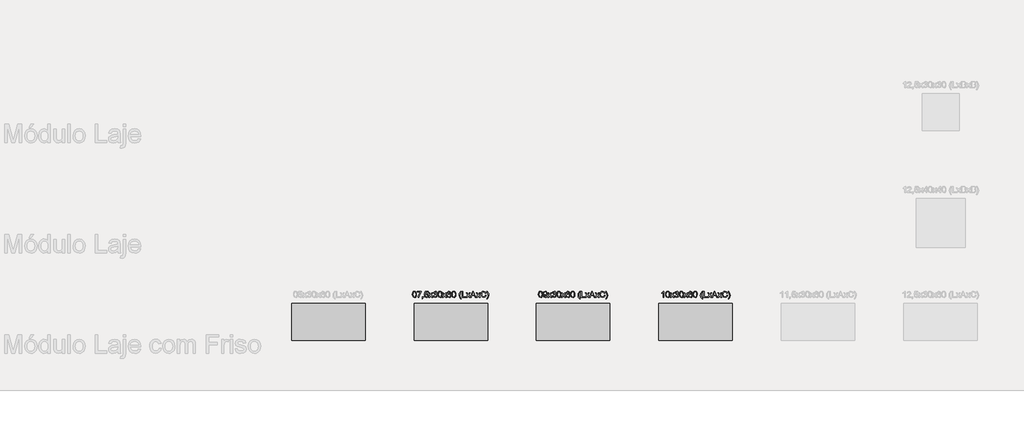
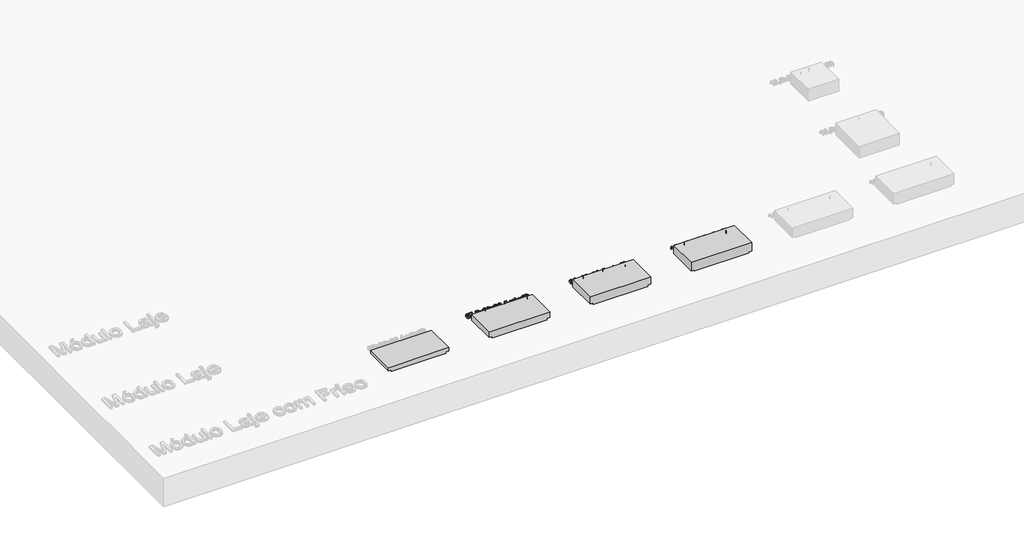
# One storey, part 3 of 26: 7 proxies.
"""IFC4 building model written with IfcOpenShell, lengths in millimetres."""

from ifc_helpers import new_model, si_unit, origin, origin_with_axes, place, context, project, spatial, polyline, outline, extrude, transform, mapped, element, save
from components import generic_models_f0a144f9, generic_models_3bab0257, generic_models_5cd3b0e0, generic_models_69db69bc

model = new_model("IFC4")

# Units and contexts
model_context = context("Model", 3, world=origin())
ifc_project = project(units=[si_unit("LENGTHUNIT", "METRE", prefix="MILLI")], contexts=[model_context])

# Site, building, storey
site = spatial("IfcSite", under=ifc_project)
building = spatial("IfcBuilding", under=site)
storey = spatial("IfcBuildingStorey", under=building, Name="Catálogo Celucon", Elevation=0.0)

# Proxies
placement = place(None, origin())
element("IfcBuildingElementProxy", 1, Name="Dimensões", ObjectType="Dimensões", at=placement, inside=storey, context=model_context, shape_type="SweptSolid", body=[
    extrude(outline(polyline([(-12810.6091225, -4574.9666048), (-12808.7635811, -4560.5149738), (-12803.2821394, -4552.1824466), (-12794.1280091, -4549.4478571), (-12786.7948946, -4551.0665379), (-12781.7303858, -4555.7325078), (-12778.7873299, -4563.1637241), (-12777.6468957, -4574.9666048), (-12779.4740429, -4589.3569222), (-12784.9370906, -4597.7078435), (-12794.1280091, -4600.4608271), (-12805.6059273, -4595.6783612), (-12809.3583237, -4587.1833528), (-12810.6091225, -4574.9666048)]), holes=[polyline([(-12804.3306031, -4574.9543421), (-12801.3875471, -4590.5464073), (-12794.1280091, -4594.1823077), (-12786.868471, -4590.5341446), (-12783.9254151, -4574.9543421), (-12786.7703692, -4559.5400865), (-12794.2015855, -4555.7263765), (-12801.2894452, -4559.0863654), (-12804.3306031, -4574.9543421)])]), origin_with_axes(), (0.0, 0.0, 1.0), 20.0),
    extrude(outline(polyline([(-12772.1531912, -4556.5111914), (-12772.1531912, -4550.232672), (-12739.1909645, -4550.232672), (-12739.1909645, -4555.3094436), (-12748.5412985, -4568.8168441), (-12755.6966033, -4586.0275901), (-12758.0265226, -4599.6760122), (-12764.305042, -4599.6760122), (-12761.8095758, -4585.5125554), (-12754.9608393, -4569.5035572), (-12745.4694838, -4556.5111914), (-12772.1531912, -4556.5111914)])), origin_with_axes(), (0.0, 0.0, 1.0), 20.0),
    extrude(outline(polyline([(-12730.5580003, -4599.6760122), (-12730.5580003, -4593.3974928), (-12724.2794809, -4593.3974928), (-12724.2794809, -4599.6760122), (-12725.4076524, -4606.095553), (-12728.9883705, -4609.8786062), (-12730.5580003, -4607.5241614), (-12728.2526065, -4604.8140974), (-12727.4310034, -4599.6760122), (-12730.5580003, -4599.6760122)])), origin_with_axes(), (0.0, 0.0, 1.0), 20.0),
    extrude(outline(polyline([(-12714.0768869, -4586.3341585), (-12707.7983675, -4585.5493436), (-12704.6345824, -4592.0179353), (-12698.0740201, -4594.1823077), (-12690.2013454, -4591.1718067), (-12687.3931795, -4583.1826361), (-12690.0235358, -4575.7268943), (-12697.9759183, -4572.9923048), (-12703.4880168, -4574.083688), (-12707.0135526, -4576.9163794), (-12713.292072, -4576.1315645), (-12707.7983675, -4550.232672), (-12683.4691049, -4550.232672), (-12683.4691049, -4556.5111914), (-12702.721596, -4556.5111914), (-12705.4071346, -4570.3435544), (-12696.2223474, -4566.7137854), (-12685.4863245, -4571.2142085), (-12681.1146602, -4582.7902286), (-12685.0509975, -4594.4398251), (-12690.7041175, -4598.9555766), (-12698.0985456, -4600.4608271), (-12709.177925, -4596.5919348), (-12714.0768869, -4586.3341585)])), origin_with_axes(), (0.0, 0.0, 1.0), 20.0),
    extrude(outline(polyline([(-12677.9754005, -4599.6760122), (-12664.5599704, -4581.1347596), (-12677.1905855, -4562.7897108), (-12669.6367419, -4562.7897108), (-12663.5421635, -4571.6188787), (-12660.6972094, -4575.7882079), (-12658.2324001, -4572.3791681), (-12651.2916931, -4562.7897108), (-12643.7378494, -4562.7897108), (-12657.0061267, -4581.1347596), (-12644.2283588, -4599.6760122), (-12651.7822024, -4599.6760122), (-12659.4709361, -4588.5291877), (-12660.8811504, -4586.493574), (-12670.4215568, -4599.6760122), (-12677.9754005, -4599.6760122)])), origin_with_axes(), (0.0, 0.0, 1.0), 20.0),
    extrude(outline(polyline([(-12640.3042842, -4586.3341585), (-12634.0257648, -4585.5493436), (-12630.5615427, -4592.1589567), (-12624.0806882, -4594.1823077), (-12616.4532681, -4591.3986673), (-12613.6205768, -4584.5070112), (-12616.4287427, -4578.013894), (-12623.5656534, -4575.4448514), (-12627.9679746, -4576.1315645), (-12627.2689988, -4569.8530451), (-12619.1388067, -4568.1239997), (-12615.9750215, -4562.5812443), (-12618.2681526, -4557.6700197), (-12624.17879, -4555.7263765), (-12630.1630038, -4557.6884138), (-12633.2409499, -4563.5745257), (-12639.5194692, -4562.7897108), (-12634.381384, -4552.942736), (-12624.3995192, -4549.4478571), (-12616.8272815, -4551.1707711), (-12611.5297808, -4555.8796606), (-12609.6965022, -4562.2133623), (-12611.4378103, -4568.0013724), (-12616.5881582, -4572.1584389), (-12609.7455531, -4576.4503955), (-12607.3420574, -4584.6173758), (-12612.1490488, -4595.8500394), (-12624.3014174, -4600.4608271), (-12635.3133518, -4596.5244897), (-12640.3042842, -4586.3341585)])), origin_with_axes(), (0.0, 0.0, 1.0), 20.0),
    extrude(outline(polyline([(-12601.8483529, -4574.9666048), (-12600.0028116, -4560.5149738), (-12594.5213699, -4552.1824466), (-12585.3672395, -4549.4478571), (-12578.0341251, -4551.0665379), (-12572.9696163, -4555.7325078), (-12570.0265603, -4563.1637241), (-12568.8861262, -4574.9666048), (-12570.7132734, -4589.3569222), (-12576.176321, -4597.7078435), (-12585.3672395, -4600.4608271), (-12596.8451578, -4595.6783612), (-12600.5975541, -4587.1833528), (-12601.8483529, -4574.9666048)]), holes=[polyline([(-12595.5698335, -4574.9543421), (-12592.6267776, -4590.5464073), (-12585.3672395, -4594.1823077), (-12578.1077015, -4590.5341446), (-12575.1646455, -4574.9543421), (-12578.0095996, -4559.5400865), (-12585.4408159, -4555.7263765), (-12592.5286757, -4559.0863654), (-12595.5698335, -4574.9543421)])]), origin_with_axes(), (0.0, 0.0, 1.0), 20.0),
    extrude(outline(polyline([(-12565.7468665, -4599.6760122), (-12552.3314364, -4581.1347596), (-12564.9620515, -4562.7897108), (-12557.4082079, -4562.7897108), (-12551.3136295, -4571.6188787), (-12548.4686754, -4575.7882079), (-12546.0038661, -4572.3791681), (-12539.0631591, -4562.7897108), (-12531.5093155, -4562.7897108), (-12544.7775927, -4581.1347596), (-12531.9998248, -4599.6760122), (-12539.5536684, -4599.6760122), (-12547.2424021, -4588.5291877), (-12548.6526164, -4586.493574), (-12558.1930228, -4599.6760122), (-12565.7468665, -4599.6760122)])), origin_with_axes(), (0.0, 0.0, 1.0), 20.0),
    extrude(outline(polyline([(-12495.8983383, -4562.7897108), (-12502.1768577, -4563.5745257), (-12504.5558279, -4558.3383386), (-12510.8466101, -4555.7263765), (-12516.5119928, -4557.2469554), (-12520.797818, -4562.9552577), (-12522.5820457, -4574.1450017), (-12517.0454217, -4569.1356752), (-12510.1844225, -4567.4986003), (-12499.5158446, -4571.9744979), (-12495.1135234, -4583.5382553), (-12497.1859253, -4592.2018763), (-12502.8880962, -4598.3332429), (-12511.1163902, -4600.4608271), (-12523.9125523, -4594.8199698), (-12527.6235619, -4587.3519653), (-12528.8605651, -4576.2296663), (-12527.487139, -4563.7247442), (-12523.3668606, -4555.1745535), (-12517.7413318, -4550.8795312), (-12510.4542026, -4549.4478571), (-12500.5336515, -4552.991787), (-12495.8983383, -4562.7897108)]), holes=[polyline([(-12522.5820457, -4583.4401534), (-12521.1289118, -4588.8786756), (-12517.2661509, -4592.8272757), (-12511.6068995, -4594.1823077), (-12504.20634, -4591.3741418), (-12501.3920428, -4583.7467218), (-12504.1695518, -4576.4442642), (-12511.8644169, -4573.7771197), (-12519.4611801, -4576.4442642), (-12522.5820457, -4583.4401534)])]), origin_with_axes(), (0.0, 0.0, 1.0), 20.0),
    extrude(outline(polyline([(-12489.6198189, -4574.9666048), (-12487.7742776, -4560.5149738), (-12482.2928359, -4552.1824466), (-12473.1387056, -4549.4478571), (-12465.8055911, -4551.0665379), (-12460.7410823, -4555.7325078), (-12457.7980264, -4563.1637241), (-12456.6575922, -4574.9666048), (-12458.4847394, -4589.3569222), (-12463.947787, -4597.7078435), (-12473.1387056, -4600.4608271), (-12484.6166238, -4595.6783612), (-12488.3690202, -4587.1833528), (-12489.6198189, -4574.9666048)]), holes=[polyline([(-12483.3412996, -4574.9543421), (-12480.3982436, -4590.5464073), (-12473.1387056, -4594.1823077), (-12465.8791675, -4590.5341446), (-12462.9361116, -4574.9543421), (-12465.7810656, -4559.5400865), (-12473.212282, -4555.7263765), (-12480.3001417, -4559.0863654), (-12483.3412996, -4574.9543421)])]), origin_with_axes(), (0.0, 0.0, 1.0), 20.0),
    extrude(outline(polyline([(-12417.416846, -4613.8026808), (-12426.331853, -4599.0751382), (-12429.9738848, -4581.5884807), (-12427.251558, -4566.3213779), (-12417.416846, -4549.4478571), (-12412.7079565, -4549.4478571), (-12418.5818057, -4559.3929337), (-12422.1134728, -4569.031442), (-12423.6953654, -4581.6252689), (-12420.9485132, -4597.7201062), (-12412.7079565, -4613.8026808), (-12417.416846, -4613.8026808)])), origin_with_axes(), (0.0, 0.0, 1.0), 20.0),
    extrude(outline(polyline([(-12405.6446222, -4599.6760122), (-12405.6446222, -4549.4478571), (-12399.3661028, -4549.4478571), (-12399.3661028, -4593.3974928), (-12374.2520252, -4593.3974928), (-12374.2520252, -4599.6760122), (-12405.6446222, -4599.6760122)])), origin_with_axes(), (0.0, 0.0, 1.0), 20.0),
    extrude(outline(polyline([(-12337.7213431, -4599.6760122), (-12317.6717744, -4549.4478571), (-12312.3252227, -4549.4478571), (-12292.275654, -4599.6760122), (-12298.9097926, -4599.6760122), (-12304.6610145, -4583.9797137), (-12325.3482454, -4583.9797137), (-12331.0872045, -4599.6760122), (-12337.7213431, -4599.6760122)]), holes=[polyline([(-12323.0428515, -4577.7011943), (-12306.9541456, -4577.7011943), (-12311.4790941, -4565.352622), (-12314.9984986, -4555.7263765), (-12318.1254955, -4564.2735015), (-12323.0428515, -4577.7011943)])]), origin_with_axes(), (0.0, 0.0, 1.0), 20.0),
    extrude(outline(polyline([(-12371.8975805, -4599.6760122), (-12358.4821504, -4581.1347596), (-12371.1127656, -4562.7897108), (-12363.5589219, -4562.7897108), (-12357.4643435, -4571.6188787), (-12354.6193894, -4575.7882079), (-12352.1545801, -4572.3791681), (-12345.2138731, -4562.7897108), (-12337.6600295, -4562.7897108), (-12350.9283068, -4581.1347596), (-12338.1505388, -4599.6760122), (-12345.7043824, -4599.6760122), (-12353.3931161, -4588.5291877), (-12354.8033304, -4586.493574), (-12364.3437368, -4599.6760122), (-12371.8975805, -4599.6760122)])), origin_with_axes(), (0.0, 0.0, 1.0), 20.0),
    extrude(outline(polyline([(-12290.2768285, -4599.6760122), (-12276.8613984, -4581.1347596), (-12289.4920136, -4562.7897108), (-12281.9381699, -4562.7897108), (-12275.8435915, -4571.6188787), (-12272.9986374, -4575.7882079), (-12270.5338281, -4572.3791681), (-12263.5931211, -4562.7897108), (-12256.0392775, -4562.7897108), (-12269.3075548, -4581.1347596), (-12256.5297868, -4599.6760122), (-12264.0836304, -4599.6760122), (-12271.7723641, -4588.5291877), (-12273.1825784, -4586.493574), (-12282.7229848, -4599.6760122), (-12290.2768285, -4599.6760122)])), origin_with_axes(), (0.0, 0.0, 1.0), 20.0),
    extrude(outline(polyline([(-12214.9345959, -4581.8214727), (-12208.6560765, -4583.4401534), (-12216.0995555, -4596.1014255), (-12229.2452055, -4600.4608271), (-12242.3111477, -4597.1621519), (-12249.9753559, -4587.6094827), (-12252.6057122, -4574.1817899), (-12249.6319994, -4560.5333679), (-12241.1768449, -4551.6858059), (-12229.1103154, -4548.6630422), (-12216.5348825, -4552.5748541), (-12209.4408914, -4563.5867884), (-12215.7194108, -4565.0828419), (-12220.8697587, -4557.3634514), (-12229.3555701, -4554.9415616), (-12239.1780194, -4557.6271001), (-12244.7269061, -4564.8375872), (-12246.3271928, -4574.1695272), (-12244.4326005, -4584.9852578), (-12238.5342259, -4591.895308), (-12229.8706049, -4594.1823077), (-12220.2627534, -4591.0675735), (-12214.9345959, -4581.8214727)])), origin_with_axes(), (0.0, 0.0, 1.0), 20.0),
    extrude(outline(polyline([(-12199.2382974, -4613.8026808), (-12203.9471869, -4613.8026808), (-12195.7066303, -4597.7201062), (-12192.959778, -4581.6252689), (-12194.5416706, -4569.1418066), (-12198.0365496, -4559.4910356), (-12203.9471869, -4549.4478571), (-12199.2382974, -4549.4478571), (-12189.4035854, -4566.3213779), (-12186.6812586, -4581.5884807), (-12190.3416845, -4599.0751382), (-12199.2382974, -4613.8026808)])), origin_with_axes(), (0.0, 0.0, 1.0), 20.0),
])
element("IfcBuildingElementProxy", 2, Name="Dimensões", ObjectType="Dimensões", at=placement, inside=storey, context=model_context, shape_type="SweptSolid", body=[
    extrude(outline(polyline([(-11781.5709703, -4574.9666048), (-11779.725429, -4560.5149738), (-11774.2439872, -4552.1824466), (-11765.0898569, -4549.4478571), (-11757.7567425, -4551.0665379), (-11752.6922337, -4555.7325078), (-11749.7491777, -4563.1637241), (-11748.6087435, -4574.9666048), (-11750.4358908, -4589.3569222), (-11755.8989384, -4597.7078435), (-11765.0898569, -4600.4608271), (-11776.5677752, -4595.6783612), (-11780.3201715, -4587.1833528), (-11781.5709703, -4574.9666048)]), holes=[polyline([(-11775.2924509, -4574.9543421), (-11772.349395, -4590.5464073), (-11765.0898569, -4594.1823077), (-11757.8303189, -4590.5341446), (-11754.8872629, -4574.9543421), (-11757.732217, -4559.5400865), (-11765.1634333, -4555.7263765), (-11772.2512931, -4559.0863654), (-11775.2924509, -4574.9543421)])]), origin_with_axes(), (0.0, 0.0, 1.0), 20.0),
    extrude(outline(polyline([(-11742.3302242, -4587.1189734), (-11736.0517048, -4586.3341585), (-11733.2312761, -4592.3245036), (-11727.8847245, -4594.1823077), (-11722.8018216, -4592.9866912), (-11719.3559936, -4589.7922492), (-11717.3019857, -4584.335333), (-11716.3945435, -4577.0512695), (-11721.4529209, -4580.5829366), (-11728.3384456, -4582.4100839), (-11738.8292138, -4577.946449), (-11743.1150391, -4566.1864879), (-11738.6207474, -4554.046382), (-11727.357427, -4549.4478571), (-11718.4117631, -4552.072082), (-11712.255871, -4559.5523492), (-11710.1528123, -4573.6054414), (-11712.2497397, -4588.8541501), (-11718.4853395, -4597.4932457), (-11728.1790301, -4600.4608271), (-11737.8298011, -4596.9598168), (-11742.3302242, -4587.1189734)]), holes=[polyline([(-11716.4313317, -4566.0393351), (-11719.1413957, -4558.5100169), (-11726.3396201, -4555.7263765), (-11733.8934637, -4558.7246147), (-11736.8365197, -4566.4930562), (-11734.0528793, -4573.4521573), (-11726.5112984, -4576.1315645), (-11719.2701544, -4573.4521573), (-11716.4313317, -4566.0393351)])]), origin_with_axes(), (0.0, 0.0, 1.0), 20.0),
    extrude(outline(polyline([(-11707.0135526, -4599.6760122), (-11693.5981225, -4581.1347596), (-11706.2287377, -4562.7897108), (-11698.6748941, -4562.7897108), (-11692.5803157, -4571.6188787), (-11689.7353616, -4575.7882079), (-11687.2705522, -4572.3791681), (-11680.3298452, -4562.7897108), (-11672.7760016, -4562.7897108), (-11686.0442789, -4581.1347596), (-11673.2665109, -4599.6760122), (-11680.8203546, -4599.6760122), (-11688.5090883, -4588.5291877), (-11689.9193026, -4586.493574), (-11699.459709, -4599.6760122), (-11707.0135526, -4599.6760122)])), origin_with_axes(), (0.0, 0.0, 1.0), 20.0),
    extrude(outline(polyline([(-11669.3424363, -4586.3341585), (-11663.0639169, -4585.5493436), (-11659.5996948, -4592.1589567), (-11653.1188403, -4594.1823077), (-11645.4914203, -4591.3986673), (-11642.6587289, -4584.5070112), (-11645.4668948, -4578.013894), (-11652.6038055, -4575.4448514), (-11657.0061267, -4576.1315645), (-11656.3071509, -4569.8530451), (-11648.1769589, -4568.1239997), (-11645.0131737, -4562.5812443), (-11647.3063048, -4557.6700197), (-11653.2169422, -4555.7263765), (-11659.201156, -4557.6884138), (-11662.279102, -4563.5745257), (-11668.5576214, -4562.7897108), (-11663.4195362, -4552.942736), (-11653.4376714, -4549.4478571), (-11645.8654337, -4551.1707711), (-11640.5679329, -4555.8796606), (-11638.7346543, -4562.2133623), (-11640.4759624, -4568.0013724), (-11645.6263104, -4572.1584389), (-11638.7837052, -4576.4503955), (-11636.3802095, -4584.6173758), (-11641.1872009, -4595.8500394), (-11653.3395695, -4600.4608271), (-11664.3515039, -4596.5244897), (-11669.3424363, -4586.3341585)])), origin_with_axes(), (0.0, 0.0, 1.0), 20.0),
    extrude(outline(polyline([(-11630.8865051, -4574.9666048), (-11629.0409637, -4560.5149738), (-11623.559522, -4552.1824466), (-11614.4053917, -4549.4478571), (-11607.0722773, -4551.0665379), (-11602.0077685, -4555.7325078), (-11599.0647125, -4563.1637241), (-11597.9242783, -4574.9666048), (-11599.7514256, -4589.3569222), (-11605.2144732, -4597.7078435), (-11614.4053917, -4600.4608271), (-11625.8833099, -4595.6783612), (-11629.6357063, -4587.1833528), (-11630.8865051, -4574.9666048)]), holes=[polyline([(-11624.6079857, -4574.9543421), (-11621.6649297, -4590.5464073), (-11614.4053917, -4594.1823077), (-11607.1458537, -4590.5341446), (-11604.2027977, -4574.9543421), (-11607.0477518, -4559.5400865), (-11614.4789681, -4555.7263765), (-11621.5668279, -4559.0863654), (-11624.6079857, -4574.9543421)])]), origin_with_axes(), (0.0, 0.0, 1.0), 20.0),
    extrude(outline(polyline([(-11594.7850186, -4599.6760122), (-11581.3695885, -4581.1347596), (-11594.0002037, -4562.7897108), (-11586.4463601, -4562.7897108), (-11580.3517817, -4571.6188787), (-11577.5068276, -4575.7882079), (-11575.0420182, -4572.3791681), (-11568.1013112, -4562.7897108), (-11560.5474676, -4562.7897108), (-11573.8157449, -4581.1347596), (-11561.0379769, -4599.6760122), (-11568.5918206, -4599.6760122), (-11576.2805543, -4588.5291877), (-11577.6907686, -4586.493574), (-11587.231175, -4599.6760122), (-11594.7850186, -4599.6760122)])), origin_with_axes(), (0.0, 0.0, 1.0), 20.0),
    extrude(outline(polyline([(-11524.9364905, -4562.7897108), (-11531.2150099, -4563.5745257), (-11533.5939801, -4558.3383386), (-11539.8847622, -4555.7263765), (-11545.5501449, -4557.2469554), (-11549.8359702, -4562.9552577), (-11551.6201979, -4574.1450017), (-11546.0835738, -4569.1356752), (-11539.2225746, -4567.4986003), (-11528.5539968, -4571.9744979), (-11524.1516755, -4583.5382553), (-11526.2240775, -4592.2018763), (-11531.9262484, -4598.3332429), (-11540.1545423, -4600.4608271), (-11552.9507044, -4594.8199698), (-11556.661714, -4587.3519653), (-11557.8987172, -4576.2296663), (-11556.5252911, -4563.7247442), (-11552.4050128, -4555.1745535), (-11546.7794839, -4550.8795312), (-11539.4923547, -4549.4478571), (-11529.5718036, -4552.991787), (-11524.9364905, -4562.7897108)]), holes=[polyline([(-11551.6201979, -4583.4401534), (-11550.167064, -4588.8786756), (-11546.304303, -4592.8272757), (-11540.6450517, -4594.1823077), (-11533.2444922, -4591.3741418), (-11530.4301949, -4583.7467218), (-11533.207704, -4576.4442642), (-11540.9025691, -4573.7771197), (-11548.4993323, -4576.4442642), (-11551.6201979, -4583.4401534)])]), origin_with_axes(), (0.0, 0.0, 1.0), 20.0),
    extrude(outline(polyline([(-11518.6579711, -4574.9666048), (-11516.8124297, -4560.5149738), (-11511.330988, -4552.1824466), (-11502.1768577, -4549.4478571), (-11494.8437433, -4551.0665379), (-11489.7792345, -4555.7325078), (-11486.8361785, -4563.1637241), (-11485.6957443, -4574.9666048), (-11487.5228916, -4589.3569222), (-11492.9859392, -4597.7078435), (-11502.1768577, -4600.4608271), (-11513.654776, -4595.6783612), (-11517.4071723, -4587.1833528), (-11518.6579711, -4574.9666048)]), holes=[polyline([(-11512.3794517, -4574.9543421), (-11509.4363957, -4590.5464073), (-11502.1768577, -4594.1823077), (-11494.9173197, -4590.5341446), (-11491.9742637, -4574.9543421), (-11494.8192178, -4559.5400865), (-11502.2504341, -4555.7263765), (-11509.3382939, -4559.0863654), (-11512.3794517, -4574.9543421)])]), origin_with_axes(), (0.0, 0.0, 1.0), 20.0),
    extrude(outline(polyline([(-11446.4549982, -4613.8026808), (-11455.3700052, -4599.0751382), (-11459.0120369, -4581.5884807), (-11456.2897102, -4566.3213779), (-11446.4549982, -4549.4478571), (-11441.7461086, -4549.4478571), (-11447.6199578, -4559.3929337), (-11451.151625, -4569.031442), (-11452.7335176, -4581.6252689), (-11449.9866653, -4597.7201062), (-11441.7461086, -4613.8026808), (-11446.4549982, -4613.8026808)])), origin_with_axes(), (0.0, 0.0, 1.0), 20.0),
    extrude(outline(polyline([(-11434.6827743, -4599.6760122), (-11434.6827743, -4549.4478571), (-11428.4042549, -4549.4478571), (-11428.4042549, -4593.3974928), (-11403.2901774, -4593.3974928), (-11403.2901774, -4599.6760122), (-11434.6827743, -4599.6760122)])), origin_with_axes(), (0.0, 0.0, 1.0), 20.0),
    extrude(outline(polyline([(-11366.7594953, -4599.6760122), (-11346.7099265, -4549.4478571), (-11341.3633749, -4549.4478571), (-11321.3138061, -4599.6760122), (-11327.9479448, -4599.6760122), (-11333.6991666, -4583.9797137), (-11354.3863975, -4583.9797137), (-11360.1253566, -4599.6760122), (-11366.7594953, -4599.6760122)]), holes=[polyline([(-11352.0810037, -4577.7011943), (-11335.9922977, -4577.7011943), (-11340.5172463, -4565.352622), (-11344.0366507, -4555.7263765), (-11347.1636477, -4564.2735015), (-11352.0810037, -4577.7011943)])]), origin_with_axes(), (0.0, 0.0, 1.0), 20.0),
    extrude(outline(polyline([(-11400.9357326, -4599.6760122), (-11387.5203025, -4581.1347596), (-11400.1509177, -4562.7897108), (-11392.5970741, -4562.7897108), (-11386.5024957, -4571.6188787), (-11383.6575416, -4575.7882079), (-11381.1927322, -4572.3791681), (-11374.2520252, -4562.7897108), (-11366.6981816, -4562.7897108), (-11379.9664589, -4581.1347596), (-11367.1886909, -4599.6760122), (-11374.7425346, -4599.6760122), (-11382.4312683, -4588.5291877), (-11383.8414826, -4586.493574), (-11393.381889, -4599.6760122), (-11400.9357326, -4599.6760122)])), origin_with_axes(), (0.0, 0.0, 1.0), 20.0),
    extrude(outline(polyline([(-11319.3149806, -4599.6760122), (-11305.8995505, -4581.1347596), (-11318.5301657, -4562.7897108), (-11310.9763221, -4562.7897108), (-11304.8817437, -4571.6188787), (-11302.0367896, -4575.7882079), (-11299.5719802, -4572.3791681), (-11292.6312733, -4562.7897108), (-11285.0774296, -4562.7897108), (-11298.3457069, -4581.1347596), (-11285.5679389, -4599.6760122), (-11293.1217826, -4599.6760122), (-11300.8105163, -4588.5291877), (-11302.2207306, -4586.493574), (-11311.761137, -4599.6760122), (-11319.3149806, -4599.6760122)])), origin_with_axes(), (0.0, 0.0, 1.0), 20.0),
    extrude(outline(polyline([(-11243.972748, -4581.8214727), (-11237.6942286, -4583.4401534), (-11245.1377077, -4596.1014255), (-11258.2833576, -4600.4608271), (-11271.3492998, -4597.1621519), (-11279.0135081, -4587.6094827), (-11281.6438643, -4574.1817899), (-11278.6701515, -4560.5333679), (-11270.214997, -4551.6858059), (-11258.1484676, -4548.6630422), (-11245.5730347, -4552.5748541), (-11238.4790436, -4563.5867884), (-11244.7575629, -4565.0828419), (-11249.9079109, -4557.3634514), (-11258.3937222, -4554.9415616), (-11268.2161715, -4557.6271001), (-11273.7650583, -4564.8375872), (-11275.3653449, -4574.1695272), (-11273.4707527, -4584.9852578), (-11267.572378, -4591.895308), (-11258.908757, -4594.1823077), (-11249.3009056, -4591.0675735), (-11243.972748, -4581.8214727)])), origin_with_axes(), (0.0, 0.0, 1.0), 20.0),
    extrude(outline(polyline([(-11228.2764496, -4613.8026808), (-11232.9853391, -4613.8026808), (-11224.7447824, -4597.7201062), (-11221.9979302, -4581.6252689), (-11223.5798228, -4569.1418066), (-11227.0747017, -4559.4910356), (-11232.9853391, -4549.4478571), (-11228.2764496, -4549.4478571), (-11218.4417376, -4566.3213779), (-11215.7194108, -4581.5884807), (-11219.3798366, -4599.0751382), (-11228.2764496, -4613.8026808)])), origin_with_axes(), (0.0, 0.0, 1.0), 20.0),
])
element("IfcBuildingElementProxy", 3, Name="Dimensões", ObjectType="Dimensões", at=placement, inside=storey, context=model_context, shape_type="SweptSolid", body=[
    extrude(outline(polyline([(-10758.0265226, -4599.6760122), (-10764.305042, -4599.6760122), (-10764.305042, -4560.5333679), (-10770.2524676, -4564.7701422), (-10776.8620808, -4567.9400587), (-10776.8620808, -4562.0048959), (-10767.6588995, -4556.1310467), (-10762.0732246, -4549.4478571), (-10758.0265226, -4549.4478571), (-10758.0265226, -4599.6760122)])), origin_with_axes(), (0.0, 0.0, 1.0), 20.0),
    extrude(outline(polyline([(-10743.1150391, -4574.9666048), (-10741.2694977, -4560.5149738), (-10735.788056, -4552.1824466), (-10726.6339257, -4549.4478571), (-10719.3008113, -4551.0665379), (-10714.2363025, -4555.7325078), (-10711.2932465, -4563.1637241), (-10710.1528123, -4574.9666048), (-10711.9799596, -4589.3569222), (-10717.4430072, -4597.7078435), (-10726.6339257, -4600.4608271), (-10738.1118439, -4595.6783612), (-10741.8642403, -4587.1833528), (-10743.1150391, -4574.9666048)]), holes=[polyline([(-10736.8365197, -4574.9543421), (-10733.8934637, -4590.5464073), (-10726.6339257, -4594.1823077), (-10719.3743877, -4590.5341446), (-10716.4313317, -4574.9543421), (-10719.2762858, -4559.5400865), (-10726.7075021, -4555.7263765), (-10733.7953619, -4559.0863654), (-10736.8365197, -4574.9543421)])]), origin_with_axes(), (0.0, 0.0, 1.0), 20.0),
    extrude(outline(polyline([(-10707.0135526, -4599.6760122), (-10693.5981225, -4581.1347596), (-10706.2287377, -4562.7897108), (-10698.6748941, -4562.7897108), (-10692.5803157, -4571.6188787), (-10689.7353616, -4575.7882079), (-10687.2705522, -4572.3791681), (-10680.3298452, -4562.7897108), (-10672.7760016, -4562.7897108), (-10686.0442789, -4581.1347596), (-10673.2665109, -4599.6760122), (-10680.8203546, -4599.6760122), (-10688.5090883, -4588.5291877), (-10689.9193026, -4586.493574), (-10699.459709, -4599.6760122), (-10707.0135526, -4599.6760122)])), origin_with_axes(), (0.0, 0.0, 1.0), 20.0),
    extrude(outline(polyline([(-10669.3424363, -4586.3341585), (-10663.0639169, -4585.5493436), (-10659.5996948, -4592.1589567), (-10653.1188403, -4594.1823077), (-10645.4914203, -4591.3986673), (-10642.6587289, -4584.5070112), (-10645.4668948, -4578.013894), (-10652.6038055, -4575.4448514), (-10657.0061267, -4576.1315645), (-10656.3071509, -4569.8530451), (-10648.1769589, -4568.1239997), (-10645.0131737, -4562.5812443), (-10647.3063048, -4557.6700197), (-10653.2169422, -4555.7263765), (-10659.201156, -4557.6884138), (-10662.279102, -4563.5745257), (-10668.5576214, -4562.7897108), (-10663.4195362, -4552.942736), (-10653.4376714, -4549.4478571), (-10645.8654337, -4551.1707711), (-10640.5679329, -4555.8796606), (-10638.7346543, -4562.2133623), (-10640.4759624, -4568.0013724), (-10645.6263104, -4572.1584389), (-10638.7837052, -4576.4503955), (-10636.3802095, -4584.6173758), (-10641.1872009, -4595.8500394), (-10653.3395695, -4600.4608271), (-10664.3515039, -4596.5244897), (-10669.3424363, -4586.3341585)])), origin_with_axes(), (0.0, 0.0, 1.0), 20.0),
    extrude(outline(polyline([(-10630.8865051, -4574.9666048), (-10629.0409637, -4560.5149738), (-10623.559522, -4552.1824466), (-10614.4053917, -4549.4478571), (-10607.0722773, -4551.0665379), (-10602.0077685, -4555.7325078), (-10599.0647125, -4563.1637241), (-10597.9242783, -4574.9666048), (-10599.7514256, -4589.3569222), (-10605.2144732, -4597.7078435), (-10614.4053917, -4600.4608271), (-10625.8833099, -4595.6783612), (-10629.6357063, -4587.1833528), (-10630.8865051, -4574.9666048)]), holes=[polyline([(-10624.6079857, -4574.9543421), (-10621.6649297, -4590.5464073), (-10614.4053917, -4594.1823077), (-10607.1458537, -4590.5341446), (-10604.2027977, -4574.9543421), (-10607.0477518, -4559.5400865), (-10614.4789681, -4555.7263765), (-10621.5668279, -4559.0863654), (-10624.6079857, -4574.9543421)])]), origin_with_axes(), (0.0, 0.0, 1.0), 20.0),
    extrude(outline(polyline([(-10594.7850186, -4599.6760122), (-10581.3695885, -4581.1347596), (-10594.0002037, -4562.7897108), (-10586.4463601, -4562.7897108), (-10580.3517817, -4571.6188787), (-10577.5068276, -4575.7882079), (-10575.0420182, -4572.3791681), (-10568.1013112, -4562.7897108), (-10560.5474676, -4562.7897108), (-10573.8157449, -4581.1347596), (-10561.0379769, -4599.6760122), (-10568.5918206, -4599.6760122), (-10576.2805543, -4588.5291877), (-10577.6907686, -4586.493574), (-10587.231175, -4599.6760122), (-10594.7850186, -4599.6760122)])), origin_with_axes(), (0.0, 0.0, 1.0), 20.0),
    extrude(outline(polyline([(-10524.9364905, -4562.7897108), (-10531.2150099, -4563.5745257), (-10533.5939801, -4558.3383386), (-10539.8847622, -4555.7263765), (-10545.5501449, -4557.2469554), (-10549.8359702, -4562.9552577), (-10551.6201979, -4574.1450017), (-10546.0835738, -4569.1356752), (-10539.2225746, -4567.4986003), (-10528.5539968, -4571.9744979), (-10524.1516755, -4583.5382553), (-10526.2240775, -4592.2018763), (-10531.9262484, -4598.3332429), (-10540.1545423, -4600.4608271), (-10552.9507044, -4594.8199698), (-10556.661714, -4587.3519653), (-10557.8987172, -4576.2296663), (-10556.5252911, -4563.7247442), (-10552.4050128, -4555.1745535), (-10546.7794839, -4550.8795312), (-10539.4923547, -4549.4478571), (-10529.5718036, -4552.991787), (-10524.9364905, -4562.7897108)]), holes=[polyline([(-10551.6201979, -4583.4401534), (-10550.167064, -4588.8786756), (-10546.304303, -4592.8272757), (-10540.6450517, -4594.1823077), (-10533.2444922, -4591.3741418), (-10530.4301949, -4583.7467218), (-10533.207704, -4576.4442642), (-10540.9025691, -4573.7771197), (-10548.4993323, -4576.4442642), (-10551.6201979, -4583.4401534)])]), origin_with_axes(), (0.0, 0.0, 1.0), 20.0),
    extrude(outline(polyline([(-10518.6579711, -4574.9666048), (-10516.8124297, -4560.5149738), (-10511.330988, -4552.1824466), (-10502.1768577, -4549.4478571), (-10494.8437433, -4551.0665379), (-10489.7792345, -4555.7325078), (-10486.8361785, -4563.1637241), (-10485.6957443, -4574.9666048), (-10487.5228916, -4589.3569222), (-10492.9859392, -4597.7078435), (-10502.1768577, -4600.4608271), (-10513.654776, -4595.6783612), (-10517.4071723, -4587.1833528), (-10518.6579711, -4574.9666048)]), holes=[polyline([(-10512.3794517, -4574.9543421), (-10509.4363957, -4590.5464073), (-10502.1768577, -4594.1823077), (-10494.9173197, -4590.5341446), (-10491.9742637, -4574.9543421), (-10494.8192178, -4559.5400865), (-10502.2504341, -4555.7263765), (-10509.3382939, -4559.0863654), (-10512.3794517, -4574.9543421)])]), origin_with_axes(), (0.0, 0.0, 1.0), 20.0),
    extrude(outline(polyline([(-10446.4549982, -4613.8026808), (-10455.3700052, -4599.0751382), (-10459.0120369, -4581.5884807), (-10456.2897102, -4566.3213779), (-10446.4549982, -4549.4478571), (-10441.7461086, -4549.4478571), (-10447.6199578, -4559.3929337), (-10451.151625, -4569.031442), (-10452.7335176, -4581.6252689), (-10449.9866653, -4597.7201062), (-10441.7461086, -4613.8026808), (-10446.4549982, -4613.8026808)])), origin_with_axes(), (0.0, 0.0, 1.0), 20.0),
    extrude(outline(polyline([(-10434.6827743, -4599.6760122), (-10434.6827743, -4549.4478571), (-10428.4042549, -4549.4478571), (-10428.4042549, -4593.3974928), (-10403.2901774, -4593.3974928), (-10403.2901774, -4599.6760122), (-10434.6827743, -4599.6760122)])), origin_with_axes(), (0.0, 0.0, 1.0), 20.0),
    extrude(outline(polyline([(-10366.7594953, -4599.6760122), (-10346.7099265, -4549.4478571), (-10341.3633749, -4549.4478571), (-10321.3138061, -4599.6760122), (-10327.9479448, -4599.6760122), (-10333.6991666, -4583.9797137), (-10354.3863975, -4583.9797137), (-10360.1253566, -4599.6760122), (-10366.7594953, -4599.6760122)]), holes=[polyline([(-10352.0810037, -4577.7011943), (-10335.9922977, -4577.7011943), (-10340.5172463, -4565.352622), (-10344.0366507, -4555.7263765), (-10347.1636477, -4564.2735015), (-10352.0810037, -4577.7011943)])]), origin_with_axes(), (0.0, 0.0, 1.0), 20.0),
    extrude(outline(polyline([(-10400.9357326, -4599.6760122), (-10387.5203025, -4581.1347596), (-10400.1509177, -4562.7897108), (-10392.5970741, -4562.7897108), (-10386.5024957, -4571.6188787), (-10383.6575416, -4575.7882079), (-10381.1927322, -4572.3791681), (-10374.2520252, -4562.7897108), (-10366.6981816, -4562.7897108), (-10379.9664589, -4581.1347596), (-10367.1886909, -4599.6760122), (-10374.7425346, -4599.6760122), (-10382.4312683, -4588.5291877), (-10383.8414826, -4586.493574), (-10393.381889, -4599.6760122), (-10400.9357326, -4599.6760122)])), origin_with_axes(), (0.0, 0.0, 1.0), 20.0),
    extrude(outline(polyline([(-10319.3149806, -4599.6760122), (-10305.8995505, -4581.1347596), (-10318.5301657, -4562.7897108), (-10310.9763221, -4562.7897108), (-10304.8817437, -4571.6188787), (-10302.0367896, -4575.7882079), (-10299.5719802, -4572.3791681), (-10292.6312733, -4562.7897108), (-10285.0774296, -4562.7897108), (-10298.3457069, -4581.1347596), (-10285.5679389, -4599.6760122), (-10293.1217826, -4599.6760122), (-10300.8105163, -4588.5291877), (-10302.2207306, -4586.493574), (-10311.761137, -4599.6760122), (-10319.3149806, -4599.6760122)])), origin_with_axes(), (0.0, 0.0, 1.0), 20.0),
    extrude(outline(polyline([(-10243.972748, -4581.8214727), (-10237.6942286, -4583.4401534), (-10245.1377077, -4596.1014255), (-10258.2833576, -4600.4608271), (-10271.3492998, -4597.1621519), (-10279.0135081, -4587.6094827), (-10281.6438643, -4574.1817899), (-10278.6701515, -4560.5333679), (-10270.214997, -4551.6858059), (-10258.1484676, -4548.6630422), (-10245.5730347, -4552.5748541), (-10238.4790436, -4563.5867884), (-10244.7575629, -4565.0828419), (-10249.9079109, -4557.3634514), (-10258.3937222, -4554.9415616), (-10268.2161715, -4557.6271001), (-10273.7650583, -4564.8375872), (-10275.3653449, -4574.1695272), (-10273.4707527, -4584.9852578), (-10267.572378, -4591.895308), (-10258.908757, -4594.1823077), (-10249.3009056, -4591.0675735), (-10243.972748, -4581.8214727)])), origin_with_axes(), (0.0, 0.0, 1.0), 20.0),
    extrude(outline(polyline([(-10228.2764496, -4613.8026808), (-10232.9853391, -4613.8026808), (-10224.7447824, -4597.7201062), (-10221.9979302, -4581.6252689), (-10223.5798228, -4569.1418066), (-10227.0747017, -4559.4910356), (-10232.9853391, -4549.4478571), (-10228.2764496, -4549.4478571), (-10218.4417376, -4566.3213779), (-10215.7194108, -4581.5884807), (-10219.3798366, -4599.0751382), (-10228.2764496, -4613.8026808)])), origin_with_axes(), (0.0, 0.0, 1.0), 20.0),
])
generic_models_shape = generic_models_f0a144f9(model_context)
element("IfcBuildingElementProxy", 4, Name="Módulo Laje de Concreto Celular com Friso - Celucon : MLCC friso 10x30x60cm (A x B x C)", ObjectType="Módulo Laje de Concreto Celular com Friso - Celucon : MLCC friso 10x30x60cm (A x B x C)", at=placement, inside=storey, context=model_context, shape_type="MappedRepresentation", body=[
    mapped(generic_models_shape, transform((-10497.8603756, -4799.6760122, 0.0), x_axis=(1.0, 0.0, 0.0), y_axis=(0.0, 1.0, 0.0), z_axis=(0.0, 0.0, 1.0))),
])
generic_models_2_shape = generic_models_3bab0257(model_context)
element("IfcBuildingElementProxy", 5, Name="Módulo Laje de Concreto Celular com Friso - Celucon : MLCC friso 09x30x60cm (A x B x C)", ObjectType="Módulo Laje de Concreto Celular com Friso - Celucon : MLCC friso 09x30x60cm (A x B x C)", at=placement, inside=storey, context=model_context, shape_type="MappedRepresentation", body=[
    mapped(generic_models_2_shape, transform((-11497.8603756, -4799.6760122, 0.0), x_axis=(1.0, 0.0, 0.0), y_axis=(0.0, 1.0, 0.0), z_axis=(0.0, 0.0, 1.0))),
])
generic_models_3_shape = generic_models_5cd3b0e0(model_context)
element("IfcBuildingElementProxy", 6, Name="Módulo Laje de Concreto Celular com Friso - Celucon : MLCC friso 07,5x30x60cm (A x B x C)", ObjectType="Módulo Laje de Concreto Celular com Friso - Celucon : MLCC friso 07,5x30x60cm (A x B x C)", at=placement, inside=storey, context=model_context, shape_type="MappedRepresentation", body=[
    mapped(generic_models_3_shape, transform((-12497.8603756, -4799.6760122, 0.0), x_axis=(1.0, 0.0, 0.0), y_axis=(0.0, 1.0, 0.0), z_axis=(0.0, 0.0, 1.0))),
])
generic_models_4_shape = generic_models_69db69bc(model_context)
element("IfcBuildingElementProxy", 7, Name="Módulo Laje de Concreto Celular com Friso - Celucon : MLCC friso 05x30x60cm (A x B x C)", ObjectType="Módulo Laje de Concreto Celular com Friso - Celucon : MLCC friso 05x30x60cm (A x B x C)", at=placement, inside=storey, context=model_context, shape_type="MappedRepresentation", body=[
    mapped(generic_models_4_shape, transform((-13497.8603756, -4799.6760122, 0.0), x_axis=(1.0, 0.0, 0.0), y_axis=(0.0, 1.0, 0.0), z_axis=(0.0, 0.0, 1.0))),
])

save(model, "model.ifc")
